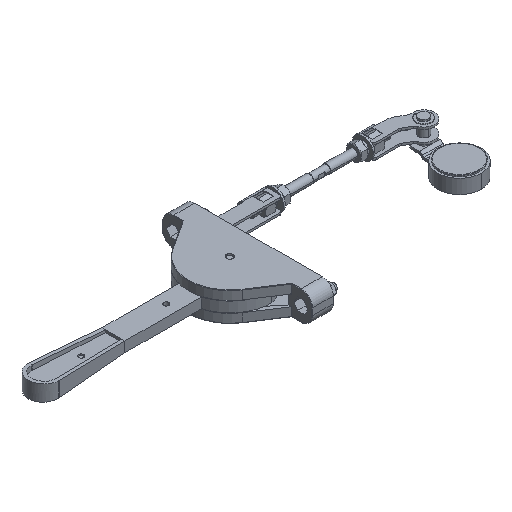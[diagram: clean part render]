
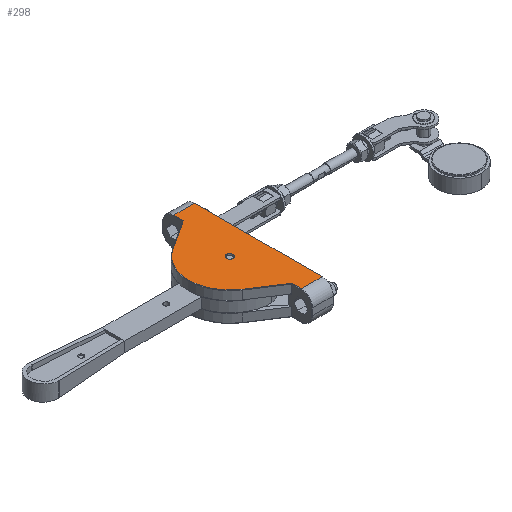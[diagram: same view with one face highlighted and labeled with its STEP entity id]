
A CAD part, isometric view. The second image highlights one B-rep face of the part: STEP entity #298.
In plain terms, the highlighted planar face has unit normal (0, 0, 1).
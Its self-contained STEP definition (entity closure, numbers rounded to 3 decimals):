
#204 = EDGE_CURVE ( 'NONE', #228, #5529, #5972, .T. ) ;
#228 = VERTEX_POINT ( 'NONE', #6001 ) ;
#281 = EDGE_CURVE ( 'NONE', #282, #228, #6088, .T. ) ;
#282 = VERTEX_POINT ( 'NONE', #6084 ) ;
#283 = VERTEX_POINT ( 'NONE', #6083 ) ;
#284 = ORIENTED_EDGE ( 'NONE', *, *, #285, .F. ) ;
#285 = EDGE_CURVE ( 'NONE', #286, #283, #6082, .T. ) ;
#286 = VERTEX_POINT ( 'NONE', #6077 ) ;
#287 = ORIENTED_EDGE ( 'NONE', *, *, #288, .T. ) ;
#288 = EDGE_CURVE ( 'NONE', #286, #289, #6076, .T. ) ;
#289 = VERTEX_POINT ( 'NONE', #6138 ) ;
#290 = ORIENTED_EDGE ( 'NONE', *, *, #291, .T. ) ;
#291 = EDGE_CURVE ( 'NONE', #289, #5542, #6137, .T. ) ;
#294 = EDGE_CURVE ( 'NONE', #311, #5539, #6132, .T. ) ;
#298 = ADVANCED_FACE ( 'NONE', ( #6122, #6121 ), #6120, .T. ) ;
#299 = EDGE_LOOP ( 'NONE', ( #300, #301, #302, #364, #365, #366, #284, #287, #290, #351 ) ) ;
#300 = ORIENTED_EDGE ( 'NONE', *, *, #294, .F. ) ;
#301 = ORIENTED_EDGE ( 'NONE', *, *, #310, .T. ) ;
#302 = ORIENTED_EDGE ( 'NONE', *, *, #281, .T. ) ;
#310 = EDGE_CURVE ( 'NONE', #311, #282, #6171, .T. ) ;
#311 = VERTEX_POINT ( 'NONE', #6164 ) ;
#351 = ORIENTED_EDGE ( 'NONE', *, *, #5541, .T. ) ;
#352 = EDGE_LOOP ( 'NONE', ( #353, #354 ) ) ;
#353 = ORIENTED_EDGE ( 'NONE', *, *, #5459, .F. ) ;
#354 = ORIENTED_EDGE ( 'NONE', *, *, #355, .F. ) ;
#355 = EDGE_CURVE ( 'NONE', #5455, #5454, #6223, .T. ) ;
#364 = ORIENTED_EDGE ( 'NONE', *, *, #204, .T. ) ;
#365 = ORIENTED_EDGE ( 'NONE', *, *, #5528, .T. ) ;
#366 = ORIENTED_EDGE ( 'NONE', *, *, #367, .T. ) ;
#367 = EDGE_CURVE ( 'NONE', #5526, #283, #6263, .T. ) ;
#5454 = VERTEX_POINT ( 'NONE', #15503 ) ;
#5455 = VERTEX_POINT ( 'NONE', #15502 ) ;
#5459 = EDGE_CURVE ( 'NONE', #5454, #5455, #15558, .T. ) ;
#5526 = VERTEX_POINT ( 'NONE', #15628 ) ;
#5528 = EDGE_CURVE ( 'NONE', #5529, #5526, #15627, .T. ) ;
#5529 = VERTEX_POINT ( 'NONE', #15622 ) ;
#5539 = VERTEX_POINT ( 'NONE', #15663 ) ;
#5541 = EDGE_CURVE ( 'NONE', #5542, #5539, #15662, .T. ) ;
#5542 = VERTEX_POINT ( 'NONE', #15658 ) ;
#5969 = DIRECTION ( 'NONE',  ( 0., 1., 0. ) ) ;
#5970 = VECTOR ( 'NONE', #5969, 1000. ) ;
#5971 = CARTESIAN_POINT ( 'NONE',  ( -15.5, 0., 0. ) ) ;
#5972 = LINE ( 'NONE', #5971, #5970 ) ;
#6001 = CARTESIAN_POINT ( 'NONE',  ( -15.5, 13., 0. ) ) ;
#6076 = LINE ( 'NONE', #6141, #6140 ) ;
#6077 = CARTESIAN_POINT ( 'NONE',  ( -40.454, 151.433, 0. ) ) ;
#6078 = DIRECTION ( 'NONE',  ( 0., 1., 0. ) ) ;
#6079 = DIRECTION ( 'NONE',  ( 0., 0., 1. ) ) ;
#6080 = CARTESIAN_POINT ( 'NONE',  ( -41., 152.271, 0. ) ) ;
#6081 = AXIS2_PLACEMENT_3D ( 'NONE', #6080, #6079, #6078 ) ;
#6082 = CIRCLE ( 'NONE', #6081, 1. ) ;
#6083 = CARTESIAN_POINT ( 'NONE',  ( -40., 152.271, 0. ) ) ;
#6084 = CARTESIAN_POINT ( 'NONE',  ( -40., 13., 0. ) ) ;
#6085 = DIRECTION ( 'NONE',  ( 1., 0., 0. ) ) ;
#6086 = VECTOR ( 'NONE', #6085, 1000. ) ;
#6087 = CARTESIAN_POINT ( 'NONE',  ( -15.5, 13., 0. ) ) ;
#6088 = LINE ( 'NONE', #6087, #6086 ) ;
#6116 = DIRECTION ( 'NONE',  ( 0., 1., 0. ) ) ;
#6117 = DIRECTION ( 'NONE',  ( 0., 0., 1. ) ) ;
#6118 = CARTESIAN_POINT ( 'NONE',  ( -49., 88., 0. ) ) ;
#6119 = AXIS2_PLACEMENT_3D ( 'NONE', #6118, #6117, #6116 ) ;
#6120 = PLANE ( 'NONE',  #6119 ) ;
#6121 = FACE_BOUND ( 'NONE', #352, .T. ) ;
#6122 = FACE_OUTER_BOUND ( 'NONE', #299, .T. ) ;
#6128 = DIRECTION ( 'NONE',  ( 0., 1., 0. ) ) ;
#6129 = DIRECTION ( 'NONE',  ( 0., 0., 1. ) ) ;
#6130 = CARTESIAN_POINT ( 'NONE',  ( -41., 23.729, 0. ) ) ;
#6131 = AXIS2_PLACEMENT_3D ( 'NONE', #6130, #6129, #6128 ) ;
#6132 = CIRCLE ( 'NONE', #6131, 1. ) ;
#6133 = DIRECTION ( 'NONE',  ( 0., 1., 0. ) ) ;
#6134 = DIRECTION ( 'NONE',  ( 0., 0., 1. ) ) ;
#6135 = CARTESIAN_POINT ( 'NONE',  ( -49., 88., 0. ) ) ;
#6136 = AXIS2_PLACEMENT_3D ( 'NONE', #6135, #6134, #6133 ) ;
#6137 = CIRCLE ( 'NONE', #6136, 48.5 ) ;
#6138 = CARTESIAN_POINT ( 'NONE',  ( -75.459, 128.647, 0. ) ) ;
#6139 = DIRECTION ( 'NONE',  ( -0.838, -0.546, 0. ) ) ;
#6140 = VECTOR ( 'NONE', #6139, 1000. ) ;
#6141 = CARTESIAN_POINT ( 'NONE',  ( -75.459, 128.647, 0. ) ) ;
#6164 = CARTESIAN_POINT ( 'NONE',  ( -40., 23.729, 0. ) ) ;
#6165 = DIRECTION ( 'NONE',  ( 0., -1., 0. ) ) ;
#6166 = VECTOR ( 'NONE', #6165, 1000. ) ;
#6167 = CARTESIAN_POINT ( 'NONE',  ( -40., 13., 0. ) ) ;
#6171 = LINE ( 'NONE', #6167, #6166 ) ;
#6219 = DIRECTION ( 'NONE',  ( 0., 1., 0. ) ) ;
#6220 = DIRECTION ( 'NONE',  ( 0., 0., 1. ) ) ;
#6221 = CARTESIAN_POINT ( 'NONE',  ( -49., 88., 0. ) ) ;
#6222 = AXIS2_PLACEMENT_3D ( 'NONE', #6221, #6220, #6219 ) ;
#6223 = CIRCLE ( 'NONE', #6222, 4.05 ) ;
#6260 = DIRECTION ( 'NONE',  ( 0., -1., 0. ) ) ;
#6261 = VECTOR ( 'NONE', #6260, 1000. ) ;
#6262 = CARTESIAN_POINT ( 'NONE',  ( -40., 152., 0. ) ) ;
#6263 = LINE ( 'NONE', #6262, #6261 ) ;
#15502 = CARTESIAN_POINT ( 'NONE',  ( -49., 92.05, 0. ) ) ;
#15503 = CARTESIAN_POINT ( 'NONE',  ( -49., 83.95, 0. ) ) ;
#15554 = DIRECTION ( 'NONE',  ( 0., 1., 0. ) ) ;
#15555 = DIRECTION ( 'NONE',  ( 0., 0., 1. ) ) ;
#15556 = CARTESIAN_POINT ( 'NONE',  ( -49., 88., 0. ) ) ;
#15557 = AXIS2_PLACEMENT_3D ( 'NONE', #15556, #15555, #15554 ) ;
#15558 = CIRCLE ( 'NONE', #15557, 4.05 ) ;
#15622 = CARTESIAN_POINT ( 'NONE',  ( -15.5, 163., 0. ) ) ;
#15624 = DIRECTION ( 'NONE',  ( -1., 0., 0. ) ) ;
#15625 = VECTOR ( 'NONE', #15624, 1000. ) ;
#15626 = CARTESIAN_POINT ( 'NONE',  ( -40.5, 163., 0. ) ) ;
#15627 = LINE ( 'NONE', #15626, #15625 ) ;
#15628 = CARTESIAN_POINT ( 'NONE',  ( -40., 163., 0. ) ) ;
#15658 = CARTESIAN_POINT ( 'NONE',  ( -75.459, 47.353, 0. ) ) ;
#15659 = DIRECTION ( 'NONE',  ( 0.838, -0.546, 0. ) ) ;
#15660 = VECTOR ( 'NONE', #15659, 1000. ) ;
#15661 = CARTESIAN_POINT ( 'NONE',  ( -40.227, 24.419, 0. ) ) ;
#15662 = LINE ( 'NONE', #15661, #15660 ) ;
#15663 = CARTESIAN_POINT ( 'NONE',  ( -40.454, 24.567, 0. ) ) ;
